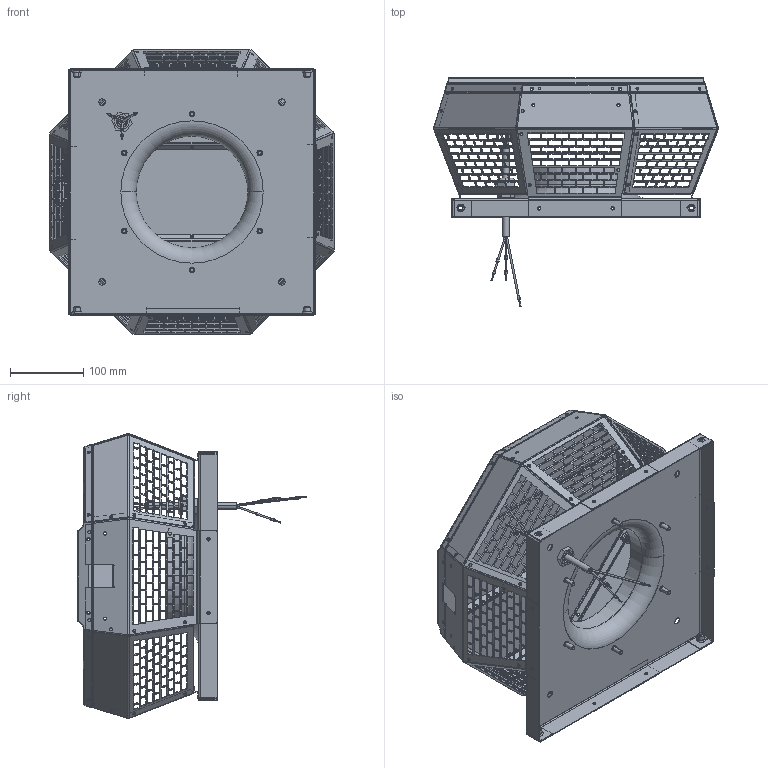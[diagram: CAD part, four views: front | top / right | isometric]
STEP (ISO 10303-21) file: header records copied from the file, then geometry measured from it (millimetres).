
FILE_DESCRIPTION (( 'STEP AP203' ), '1' );
FILE_NAME ('131829-00_DHA220E2P30.STEP', '2015-01-27T15:00:50', ( '' ), ( '' ), 'SwSTEP 2.0', 'SolidWorks 2012', '' );
FILE_SCHEMA (( 'CONFIG_CONTROL_DESIGN' ));
Products named in the file (1): 131829-00_DHA220E2P30
Bounding box: 388.18 x 312.12 x 388.18 mm (x, y, z)
Surface area: 864711.9 mm2 (no closed solid volume)
Topology: 0 solids, 57 shells, 2454 faces, 8166 edges, 5527 vertices
Faces by surface type: plane 1832, cylinder 485, torus 54, bspline 48, cone 35
Entity records: 90426 total; most frequent: CARTESIAN_POINT 17940, ORIENTED_EDGE 14277, DIRECTION 13786, EDGE_CURVE 8166, LINE 6752, VECTOR 6752, VERTEX_POINT 5527, EDGE_LOOP 3625
